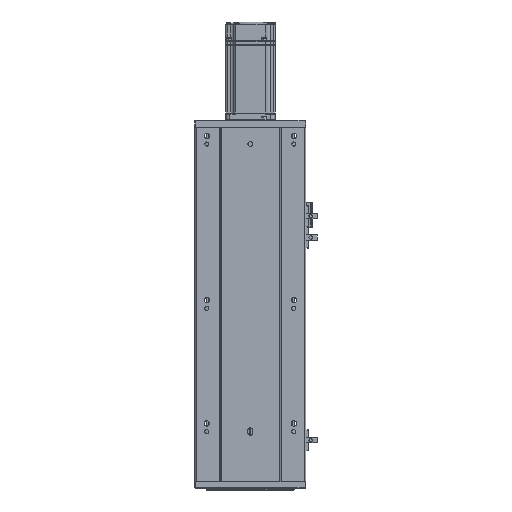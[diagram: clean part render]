
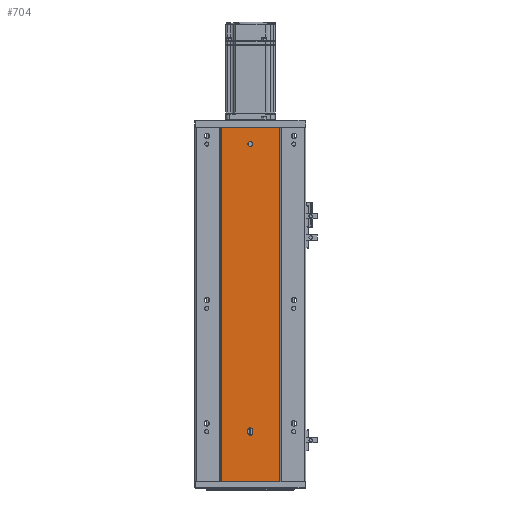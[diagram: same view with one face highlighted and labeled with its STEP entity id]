
A CAD part, front view. The second image highlights one B-rep face of the part: STEP entity #704.
In plain terms, the highlighted planar face has unit normal (0, -1, 0).
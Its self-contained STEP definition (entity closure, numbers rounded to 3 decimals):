
#165 = LINE ( 'NONE', #64261, #14214 ) ;
#582 = CARTESIAN_POINT ( 'NONE',  ( 137.505, 78.746, 62.5 ) ) ;
#704 = ADVANCED_FACE ( 'NONE', ( #61535, #23174, #31041 ), #28842, .T. ) ;
#1177 = DIRECTION ( 'NONE',  ( 0., 0., -1. ) ) ;
#2614 = ORIENTED_EDGE ( 'NONE', *, *, #2745, .F. ) ;
#2745 = EDGE_CURVE ( 'NONE', #58505, #32820, #7438, .T. ) ;
#2966 = CARTESIAN_POINT ( 'NONE',  ( 0., 78.746, 431. ) ) ;
#3483 = EDGE_CURVE ( 'NONE', #55675, #58505, #21539, .T. ) ;
#3686 = EDGE_CURVE ( 'NONE', #17402, #55675, #36375, .T. ) ;
#6797 = CARTESIAN_POINT ( 'NONE',  ( 0., 78.746, 0. ) ) ;
#7180 = CARTESIAN_POINT ( 'NONE',  ( 134.505, 78.746, 411. ) ) ;
#7438 = CIRCLE ( 'NONE', #18880, 3. ) ;
#8089 = CARTESIAN_POINT ( 'NONE',  ( 134.505, 78.746, 62.5 ) ) ;
#8493 = AXIS2_PLACEMENT_3D ( 'NONE', #2966, #38076, #28631 ) ;
#9766 = DIRECTION ( 'NONE',  ( 0., 0., 1. ) ) ;
#10797 = CARTESIAN_POINT ( 'NONE',  ( 170.005, 78.746, 431. ) ) ;
#11503 = EDGE_CURVE ( 'NONE', #44461, #26486, #33818, .T. ) ;
#12216 = DIRECTION ( 'NONE',  ( 1., 0., 0. ) ) ;
#14116 = VECTOR ( 'NONE', #1177, 1000. ) ;
#14145 = CARTESIAN_POINT ( 'NONE',  ( 137.505, 78.746, 59.5 ) ) ;
#14214 = VECTOR ( 'NONE', #44533, 1000. ) ;
#14813 = LINE ( 'NONE', #40480, #31353 ) ;
#16245 = EDGE_CURVE ( 'NONE', #64537, #36245, #64459, .T. ) ;
#17141 = CARTESIAN_POINT ( 'NONE',  ( 131.505, 78.746, 59.5 ) ) ;
#17402 = VERTEX_POINT ( 'NONE', #17141 ) ;
#17633 = EDGE_CURVE ( 'NONE', #58498, #44461, #14813, .T. ) ;
#18880 = AXIS2_PLACEMENT_3D ( 'NONE', #8089, #32726, #43421 ) ;
#19322 = DIRECTION ( 'NONE',  ( 0., -1., 0. ) ) ;
#20423 = EDGE_LOOP ( 'NONE', ( #55929, #21002 ) ) ;
#20853 = ORIENTED_EDGE ( 'NONE', *, *, #17633, .T. ) ;
#21002 = ORIENTED_EDGE ( 'NONE', *, *, #16245, .F. ) ;
#21539 = LINE ( 'NONE', #582, #41157 ) ;
#22366 = DIRECTION ( 'NONE',  ( 0., -1., 0. ) ) ;
#23174 = FACE_BOUND ( 'NONE', #20423, .T. ) ;
#24908 = ORIENTED_EDGE ( 'NONE', *, *, #11503, .T. ) ;
#25443 = CARTESIAN_POINT ( 'NONE',  ( 134.505, 78.746, 414. ) ) ;
#26265 = CARTESIAN_POINT ( 'NONE',  ( 134.505, 78.746, 59.5 ) ) ;
#26486 = VERTEX_POINT ( 'NONE', #32590 ) ;
#27015 = CARTESIAN_POINT ( 'NONE',  ( 170.005, 78.746, 431. ) ) ;
#28631 = DIRECTION ( 'NONE',  ( 1., 0., 0. ) ) ;
#28709 = EDGE_CURVE ( 'NONE', #32820, #17402, #165, .T. ) ;
#28842 = PLANE ( 'NONE',  #8493 ) ;
#30402 = DIRECTION ( 'NONE',  ( -1., 0., 0. ) ) ;
#31041 = FACE_OUTER_BOUND ( 'NONE', #37059, .T. ) ;
#31204 = DIRECTION ( 'NONE',  ( -1., 0., 0. ) ) ;
#31291 = DIRECTION ( 'NONE',  ( 1., 0., 0. ) ) ;
#31353 = VECTOR ( 'NONE', #30402, 1000. ) ;
#32590 = CARTESIAN_POINT ( 'NONE',  ( 99.005, 78.746, 0. ) ) ;
#32726 = DIRECTION ( 'NONE',  ( 0., -1., 0. ) ) ;
#32820 = VERTEX_POINT ( 'NONE', #52261 ) ;
#33084 = CIRCLE ( 'NONE', #40412, 3. ) ;
#33495 = ORIENTED_EDGE ( 'NONE', *, *, #36384, .F. ) ;
#33514 = ORIENTED_EDGE ( 'NONE', *, *, #53634, .F. ) ;
#33818 = LINE ( 'NONE', #61432, #14116 ) ;
#33868 = EDGE_CURVE ( 'NONE', #36245, #64537, #33084, .T. ) ;
#34985 = CARTESIAN_POINT ( 'NONE',  ( 99.005, 78.746, 431. ) ) ;
#36245 = VERTEX_POINT ( 'NONE', #50210 ) ;
#36375 = CIRCLE ( 'NONE', #55403, 3. ) ;
#36384 = EDGE_CURVE ( 'NONE', #58498, #41584, #46938, .T. ) ;
#37059 = EDGE_LOOP ( 'NONE', ( #33514, #33495, #20853, #24908 ) ) ;
#38076 = DIRECTION ( 'NONE',  ( 0., -1., 0. ) ) ;
#40412 = AXIS2_PLACEMENT_3D ( 'NONE', #49732, #19322, #59777 ) ;
#40480 = CARTESIAN_POINT ( 'NONE',  ( 0., 78.746, 431. ) ) ;
#41157 = VECTOR ( 'NONE', #9766, 1000. ) ;
#41512 = EDGE_LOOP ( 'NONE', ( #2614, #58090, #46393, #49538 ) ) ;
#41584 = VERTEX_POINT ( 'NONE', #44122 ) ;
#43421 = DIRECTION ( 'NONE',  ( 1., 0., 0. ) ) ;
#44122 = CARTESIAN_POINT ( 'NONE',  ( 170.005, 78.746, 0. ) ) ;
#44461 = VERTEX_POINT ( 'NONE', #34985 ) ;
#44533 = DIRECTION ( 'NONE',  ( 0., 0., -1. ) ) ;
#46393 = ORIENTED_EDGE ( 'NONE', *, *, #3686, .F. ) ;
#46938 = LINE ( 'NONE', #27015, #61839 ) ;
#49538 = ORIENTED_EDGE ( 'NONE', *, *, #28709, .F. ) ;
#49732 = CARTESIAN_POINT ( 'NONE',  ( 134.505, 78.746, 411. ) ) ;
#49894 = VECTOR ( 'NONE', #31204, 1000. ) ;
#50210 = CARTESIAN_POINT ( 'NONE',  ( 134.505, 78.746, 408. ) ) ;
#52261 = CARTESIAN_POINT ( 'NONE',  ( 131.505, 78.746, 62.5 ) ) ;
#53024 = LINE ( 'NONE', #6797, #49894 ) ;
#53634 = EDGE_CURVE ( 'NONE', #41584, #26486, #53024, .T. ) ;
#55403 = AXIS2_PLACEMENT_3D ( 'NONE', #26265, #61259, #31291 ) ;
#55675 = VERTEX_POINT ( 'NONE', #14145 ) ;
#55929 = ORIENTED_EDGE ( 'NONE', *, *, #33868, .F. ) ;
#58090 = ORIENTED_EDGE ( 'NONE', *, *, #3483, .F. ) ;
#58498 = VERTEX_POINT ( 'NONE', #10797 ) ;
#58505 = VERTEX_POINT ( 'NONE', #60991 ) ;
#59777 = DIRECTION ( 'NONE',  ( 1., 0., 0. ) ) ;
#60991 = CARTESIAN_POINT ( 'NONE',  ( 137.505, 78.746, 62.5 ) ) ;
#61259 = DIRECTION ( 'NONE',  ( 0., -1., 0. ) ) ;
#61432 = CARTESIAN_POINT ( 'NONE',  ( 99.005, 78.746, 431. ) ) ;
#61535 = FACE_BOUND ( 'NONE', #41512, .T. ) ;
#61839 = VECTOR ( 'NONE', #62024, 1000. ) ;
#62024 = DIRECTION ( 'NONE',  ( 0., 0., -1. ) ) ;
#62741 = AXIS2_PLACEMENT_3D ( 'NONE', #7180, #22366, #12216 ) ;
#64261 = CARTESIAN_POINT ( 'NONE',  ( 131.505, 78.746, 62.5 ) ) ;
#64459 = CIRCLE ( 'NONE', #62741, 3. ) ;
#64537 = VERTEX_POINT ( 'NONE', #25443 ) ;
